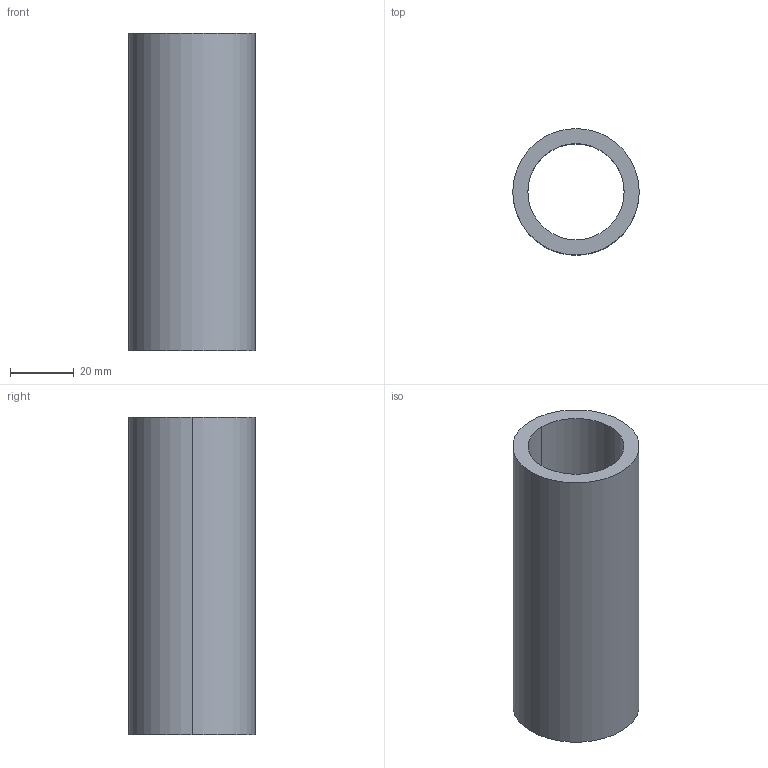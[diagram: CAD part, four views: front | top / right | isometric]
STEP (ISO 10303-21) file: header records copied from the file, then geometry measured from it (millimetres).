
FILE_DESCRIPTION (( 'STEP AP203' ), '1' );
FILE_NAME ('19-0408-26_outokumpu.step', '2015-08-11T09:41:28', ( '' ), ( '' ), 'SwSTEP 2.0', 'SolidWorks 2008', '' );
FILE_SCHEMA (( 'CONFIG_CONTROL_DESIGN' ));
Length unit declared in the file: millimetre
Products named in the file (1): 19-0408-26_outokumpu
Bounding box: 39.8 x 39.8 x 100 mm (x, y, z)
Volume: 49462.8 mm3; surface area: 23136.5 mm2
Topology: 1 solids, 1 shells, 12 faces, 26 edges, 16 vertices
Faces by surface type: cylinder 6, cone 4, plane 2
Entity records: 415 total; most frequent: DIRECTION 68, CARTESIAN_POINT 55, ORIENTED_EDGE 52, AXIS2_PLACEMENT_3D 29, EDGE_CURVE 26, VERTEX_POINT 16, CIRCLE 16, EDGE_LOOP 14
